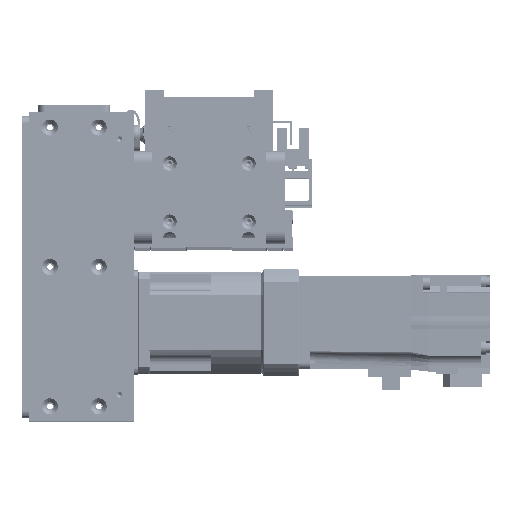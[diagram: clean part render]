
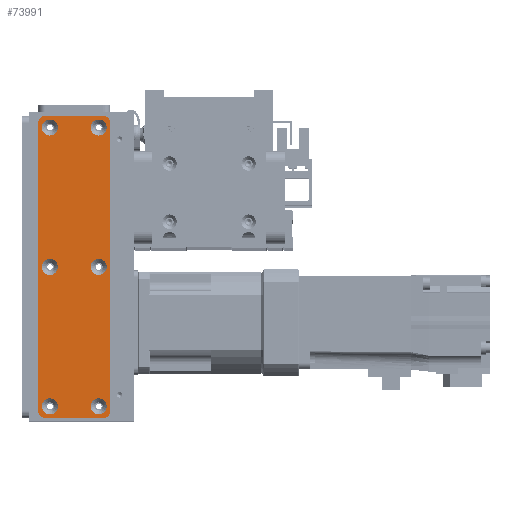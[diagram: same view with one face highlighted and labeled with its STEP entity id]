
A CAD part, top view. The second image highlights one B-rep face of the part: STEP entity #73991.
In plain terms, the highlighted planar face has unit normal (0, 0, 1).
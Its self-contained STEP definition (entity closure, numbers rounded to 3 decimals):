
#1902=FACE_BOUND('',#12896,.T.);
#1903=FACE_BOUND('',#12897,.T.);
#1904=FACE_BOUND('',#12898,.T.);
#1905=FACE_BOUND('',#12899,.T.);
#1906=FACE_BOUND('',#12900,.T.);
#1907=FACE_BOUND('',#12901,.T.);
#4454=PLANE('',#81358);
#8318=FACE_OUTER_BOUND('',#12895,.T.);
#12895=EDGE_LOOP('',(#69110,#69111,#69112,#69113,#69114,#69115,#69116,#69117));
#12896=EDGE_LOOP('',(#69118));
#12897=EDGE_LOOP('',(#69119));
#12898=EDGE_LOOP('',(#69120));
#12899=EDGE_LOOP('',(#69121));
#12900=EDGE_LOOP('',(#69122));
#12901=EDGE_LOOP('',(#69123));
#15759=CIRCLE('',#81312,3.45);
#15762=CIRCLE('',#81317,3.45);
#15765=CIRCLE('',#81322,3.45);
#15768=CIRCLE('',#81327,3.45);
#15771=CIRCLE('',#81332,3.45);
#15774=CIRCLE('',#81337,3.45);
#15781=CIRCLE('',#81347,3.);
#15782=CIRCLE('',#81350,3.);
#15783=CIRCLE('',#81353,3.);
#15784=CIRCLE('',#81356,3.);
#23282=LINE('',#127838,#30789);
#23285=LINE('',#127846,#30792);
#23288=LINE('',#127854,#30795);
#23291=LINE('',#127861,#30798);
#30789=VECTOR('',#101837,10.);
#30792=VECTOR('',#101846,10.);
#30795=VECTOR('',#101855,10.);
#30798=VECTOR('',#101864,10.);
#37668=VERTEX_POINT('',#127754);
#37671=VERTEX_POINT('',#127764);
#37674=VERTEX_POINT('',#127774);
#37677=VERTEX_POINT('',#127784);
#37680=VERTEX_POINT('',#127794);
#37683=VERTEX_POINT('',#127804);
#37694=VERTEX_POINT('',#127831);
#37695=VERTEX_POINT('',#127833);
#37696=VERTEX_POINT('',#127837);
#37697=VERTEX_POINT('',#127841);
#37698=VERTEX_POINT('',#127845);
#37699=VERTEX_POINT('',#127849);
#37700=VERTEX_POINT('',#127853);
#37701=VERTEX_POINT('',#127857);
#48122=EDGE_CURVE('',#37668,#37668,#15759,.T.);
#48127=EDGE_CURVE('',#37671,#37671,#15762,.T.);
#48132=EDGE_CURVE('',#37674,#37674,#15765,.T.);
#48137=EDGE_CURVE('',#37677,#37677,#15768,.T.);
#48142=EDGE_CURVE('',#37680,#37680,#15771,.T.);
#48147=EDGE_CURVE('',#37683,#37683,#15774,.T.);
#48161=EDGE_CURVE('',#37695,#37694,#15781,.T.);
#48163=EDGE_CURVE('',#37696,#37695,#23282,.T.);
#48165=EDGE_CURVE('',#37697,#37696,#15782,.T.);
#48167=EDGE_CURVE('',#37698,#37697,#23285,.T.);
#48169=EDGE_CURVE('',#37699,#37698,#15783,.T.);
#48171=EDGE_CURVE('',#37700,#37699,#23288,.T.);
#48173=EDGE_CURVE('',#37701,#37700,#15784,.T.);
#48175=EDGE_CURVE('',#37694,#37701,#23291,.T.);
#69110=ORIENTED_EDGE('',*,*,#48175,.T.);
#69111=ORIENTED_EDGE('',*,*,#48173,.T.);
#69112=ORIENTED_EDGE('',*,*,#48171,.T.);
#69113=ORIENTED_EDGE('',*,*,#48169,.T.);
#69114=ORIENTED_EDGE('',*,*,#48167,.T.);
#69115=ORIENTED_EDGE('',*,*,#48165,.T.);
#69116=ORIENTED_EDGE('',*,*,#48163,.T.);
#69117=ORIENTED_EDGE('',*,*,#48161,.T.);
#69118=ORIENTED_EDGE('',*,*,#48122,.T.);
#69119=ORIENTED_EDGE('',*,*,#48127,.T.);
#69120=ORIENTED_EDGE('',*,*,#48132,.T.);
#69121=ORIENTED_EDGE('',*,*,#48137,.T.);
#69122=ORIENTED_EDGE('',*,*,#48142,.T.);
#69123=ORIENTED_EDGE('',*,*,#48147,.T.);
#73991=ADVANCED_FACE('',(#8318,#1902,#1903,#1904,#1905,#1906,#1907),#4454,
 .T.);
#81312=AXIS2_PLACEMENT_3D('',#127755,#101745,#101746);
#81317=AXIS2_PLACEMENT_3D('',#127765,#101757,#101758);
#81322=AXIS2_PLACEMENT_3D('',#127775,#101769,#101770);
#81327=AXIS2_PLACEMENT_3D('',#127785,#101781,#101782);
#81332=AXIS2_PLACEMENT_3D('',#127795,#101793,#101794);
#81337=AXIS2_PLACEMENT_3D('',#127805,#101805,#101806);
#81347=AXIS2_PLACEMENT_3D('',#127834,#101832,#101833);
#81350=AXIS2_PLACEMENT_3D('',#127842,#101841,#101842);
#81353=AXIS2_PLACEMENT_3D('',#127850,#101850,#101851);
#81356=AXIS2_PLACEMENT_3D('',#127858,#101859,#101860);
#81358=AXIS2_PLACEMENT_3D('',#127862,#101865,#101866);
#101745=DIRECTION('center_axis',(0.,0.,-1.));
#101746=DIRECTION('ref_axis',(1.,0.,0.));
#101757=DIRECTION('center_axis',(0.,0.,-1.));
#101758=DIRECTION('ref_axis',(1.,0.,0.));
#101769=DIRECTION('center_axis',(0.,0.,-1.));
#101770=DIRECTION('ref_axis',(1.,0.,0.));
#101781=DIRECTION('center_axis',(0.,0.,-1.));
#101782=DIRECTION('ref_axis',(1.,0.,0.));
#101793=DIRECTION('center_axis',(0.,0.,-1.));
#101794=DIRECTION('ref_axis',(1.,0.,0.));
#101805=DIRECTION('center_axis',(0.,0.,-1.));
#101806=DIRECTION('ref_axis',(1.,0.,0.));
#101832=DIRECTION('center_axis',(0.,0.,1.));
#101833=DIRECTION('ref_axis',(0.,1.,0.));
#101837=DIRECTION('',(-1.,0.,0.));
#101841=DIRECTION('center_axis',(0.,0.,1.));
#101842=DIRECTION('ref_axis',(1.,0.,0.));
#101846=DIRECTION('',(0.,1.,0.));
#101850=DIRECTION('center_axis',(0.,0.,1.));
#101851=DIRECTION('ref_axis',(0.,-1.,0.));
#101855=DIRECTION('',(1.,0.,0.));
#101859=DIRECTION('center_axis',(0.,0.,1.));
#101860=DIRECTION('ref_axis',(-1.,0.,0.));
#101864=DIRECTION('',(0.,-1.,0.));
#101865=DIRECTION('center_axis',(0.,0.,1.));
#101866=DIRECTION('ref_axis',(1.,0.,0.));
#127754=CARTESIAN_POINT('',(-3.45,10.5,1.5));
#127755=CARTESIAN_POINT('Origin',(0.,10.5,1.5));
#127764=CARTESIAN_POINT('',(56.55,-10.5,1.5));
#127765=CARTESIAN_POINT('Origin',(60.,-10.5,1.5));
#127774=CARTESIAN_POINT('',(-63.45,10.5,1.5));
#127775=CARTESIAN_POINT('Origin',(-60.,10.5,1.5));
#127784=CARTESIAN_POINT('',(56.55,10.5,1.5));
#127785=CARTESIAN_POINT('Origin',(60.,10.5,1.5));
#127794=CARTESIAN_POINT('',(-63.45,-10.5,1.5));
#127795=CARTESIAN_POINT('Origin',(-60.,-10.5,1.5));
#127804=CARTESIAN_POINT('',(-3.45,-10.5,1.5));
#127805=CARTESIAN_POINT('Origin',(0.,-10.5,1.5));
#127831=CARTESIAN_POINT('',(-65.,12.5,1.5));
#127833=CARTESIAN_POINT('',(-62.,15.5,1.5));
#127834=CARTESIAN_POINT('Origin',(-62.,12.5,1.5));
#127837=CARTESIAN_POINT('',(62.,15.5,1.5));
#127838=CARTESIAN_POINT('',(62.,15.5,1.5));
#127841=CARTESIAN_POINT('',(65.,12.5,1.5));
#127842=CARTESIAN_POINT('Origin',(62.,12.5,1.5));
#127845=CARTESIAN_POINT('',(65.,-12.5,1.5));
#127846=CARTESIAN_POINT('',(65.,-12.5,1.5));
#127849=CARTESIAN_POINT('',(62.,-15.5,1.5));
#127850=CARTESIAN_POINT('Origin',(62.,-12.5,1.5));
#127853=CARTESIAN_POINT('',(-62.,-15.5,1.5));
#127854=CARTESIAN_POINT('',(-62.,-15.5,1.5));
#127857=CARTESIAN_POINT('',(-65.,-12.5,1.5));
#127858=CARTESIAN_POINT('Origin',(-62.,-12.5,1.5));
#127861=CARTESIAN_POINT('',(-65.,12.5,1.5));
#127862=CARTESIAN_POINT('Origin',(0.,0.,
1.5));
